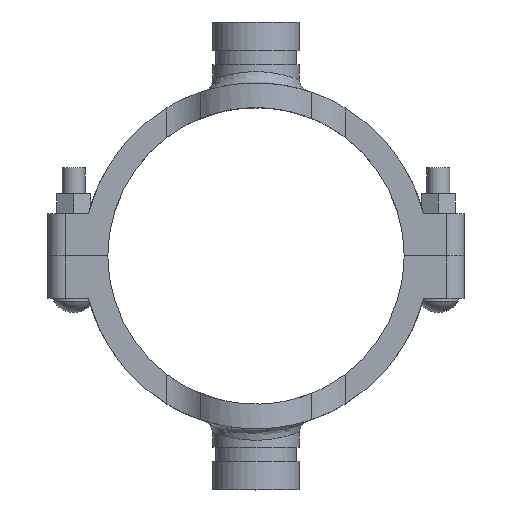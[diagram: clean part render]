
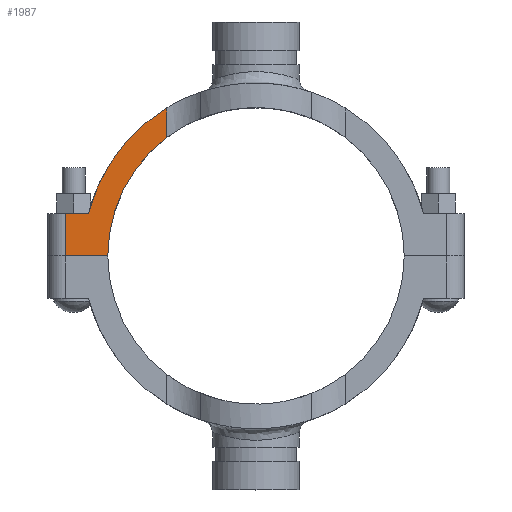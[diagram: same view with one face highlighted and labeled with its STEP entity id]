
A CAD part, top view. The second image highlights one B-rep face of the part: STEP entity #1987.
In plain terms, the highlighted planar face has unit normal (0, 0, 1) as drawn and (0, 0, -1) by its records, which use the part's own axes.
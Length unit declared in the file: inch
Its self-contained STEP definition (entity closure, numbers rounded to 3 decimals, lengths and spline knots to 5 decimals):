
#185=FACE_OUTER_BOUND('',#303,.T.);
#303=EDGE_LOOP('',(#1447,#1448,#1449,#1450,#1451,#1452));
#449=LINE('',#3601,#599);
#450=LINE('',#3603,#600);
#451=LINE('',#3605,#601);
#452=LINE('',#3606,#602);
#599=VECTOR('',#2575,0.3937);
#600=VECTOR('',#2576,0.3937);
#601=VECTOR('',#2577,0.3937);
#602=VECTOR('',#2578,0.3937);
#693=CIRCLE('',#2142,3.79);
#721=CIRCLE('',#2200,3.25);
#806=VERTEX_POINT('',#3226);
#807=VERTEX_POINT('',#3228);
#858=VERTEX_POINT('',#3522);
#859=VERTEX_POINT('',#3535);
#868=VERTEX_POINT('',#3602);
#869=VERTEX_POINT('',#3604);
#1003=EDGE_CURVE('',#807,#806,#693,.T.);
#1077=EDGE_CURVE('',#859,#858,#721,.T.);
#1089=EDGE_CURVE('',#858,#807,#449,.T.);
#1090=EDGE_CURVE('',#806,#868,#450,.T.);
#1091=EDGE_CURVE('',#869,#868,#451,.T.);
#1092=EDGE_CURVE('',#869,#859,#452,.T.);
#1447=ORIENTED_EDGE('',*,*,#1077,.T.);
#1448=ORIENTED_EDGE('',*,*,#1089,.T.);
#1449=ORIENTED_EDGE('',*,*,#1003,.T.);
#1450=ORIENTED_EDGE('',*,*,#1090,.T.);
#1451=ORIENTED_EDGE('',*,*,#1091,.F.);
#1452=ORIENTED_EDGE('',*,*,#1092,.T.);
#1802=PLANE('',#2204);
#1987=ADVANCED_FACE('',(#185),#1802,.T.);
#2142=AXIS2_PLACEMENT_3D('',#3229,#2404,#2405);
#2200=AXIS2_PLACEMENT_3D('',#3536,#2559,#2560);
#2204=AXIS2_PLACEMENT_3D('',#3600,#2573,#2574);
#2404=DIRECTION('center_axis',(0.,0.,-1.));
#2405=DIRECTION('ref_axis',(0.969,0.245,0.));
#2559=DIRECTION('center_axis',(0.,0.,1.));
#2560=DIRECTION('ref_axis',(-1.,0.,0.));
#2573=DIRECTION('center_axis',(0.,0.,-1.));
#2574=DIRECTION('ref_axis',(-1.,0.,0.));
#2575=DIRECTION('',(0.,1.,0.));
#2576=DIRECTION('',(1.,0.,0.));
#2577=DIRECTION('',(0.,1.,0.));
#2578=DIRECTION('',(-1.,0.,0.));
#3226=CARTESIAN_POINT('',(3.67413,0.93,-0.75));
#3228=CARTESIAN_POINT('',(1.95656,3.24592,-0.75));
#3229=CARTESIAN_POINT('Origin',(0.,0.,-0.75));
#3522=CARTESIAN_POINT('',(1.95656,2.59507,-0.75));
#3535=CARTESIAN_POINT('',(3.25,0.,-0.75));
#3536=CARTESIAN_POINT('Origin',(0.,0.,-0.75));
#3600=CARTESIAN_POINT('Origin',(4.185,0.,-0.75));
#3601=CARTESIAN_POINT('',(1.95656,0.,-0.75));
#3602=CARTESIAN_POINT('',(4.185,0.93,-0.75));
#3603=CARTESIAN_POINT('',(3.92956,0.93,-0.75));
#3604=CARTESIAN_POINT('',(4.185,0.,-0.75));
#3605=CARTESIAN_POINT('',(4.185,0.,-0.75));
#3606=CARTESIAN_POINT('',(4.185,0.,-0.75));
